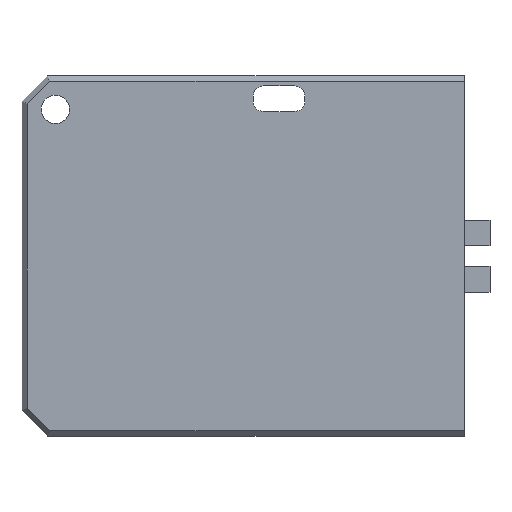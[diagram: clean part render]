
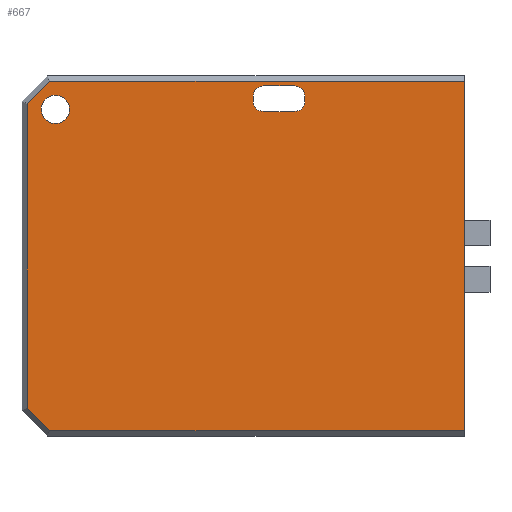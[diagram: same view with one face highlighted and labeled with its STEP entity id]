
A CAD part, top view. The second image highlights one B-rep face of the part: STEP entity #667.
In plain terms, the highlighted planar face has unit normal (0, 0, 1).
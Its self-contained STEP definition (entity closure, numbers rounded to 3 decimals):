
#23=FACE_BOUND('',#95,.T.);
#24=FACE_BOUND('',#96,.T.);
#29=CIRCLE('',#727,2.75);
#30=CIRCLE('',#728,2.);
#31=CIRCLE('',#729,2.);
#32=CIRCLE('',#730,2.);
#33=CIRCLE('',#731,2.);
#58=FACE_OUTER_BOUND('',#94,.T.);
#94=EDGE_LOOP('',(#509,#510,#511,#512,#513,#514));
#95=EDGE_LOOP('',(#515));
#96=EDGE_LOOP('',(#516,#517,#518,#519,#520,#521,#522,#523));
#154=LINE('',#1010,#236);
#156=LINE('',#1014,#238);
#159=LINE('',#1020,#241);
#162=LINE('',#1026,#244);
#165=LINE('',#1032,#247);
#168=LINE('',#1037,#250);
#169=LINE('',#1042,#251);
#170=LINE('',#1046,#252);
#171=LINE('',#1050,#253);
#172=LINE('',#1054,#254);
#236=VECTOR('',#822,10.);
#238=VECTOR('',#826,10.);
#241=VECTOR('',#831,10.);
#244=VECTOR('',#836,10.);
#247=VECTOR('',#841,10.);
#250=VECTOR('',#846,10.);
#251=VECTOR('',#849,10.);
#252=VECTOR('',#852,10.);
#253=VECTOR('',#855,10.);
#254=VECTOR('',#858,10.);
#307=VERTEX_POINT('',#1007);
#308=VERTEX_POINT('',#1009);
#309=VERTEX_POINT('',#1013);
#311=VERTEX_POINT('',#1019);
#313=VERTEX_POINT('',#1025);
#315=VERTEX_POINT('',#1031);
#317=VERTEX_POINT('',#1038);
#318=VERTEX_POINT('',#1040);
#319=VERTEX_POINT('',#1041);
#320=VERTEX_POINT('',#1043);
#321=VERTEX_POINT('',#1045);
#322=VERTEX_POINT('',#1047);
#323=VERTEX_POINT('',#1049);
#324=VERTEX_POINT('',#1051);
#325=VERTEX_POINT('',#1053);
#378=EDGE_CURVE('',#307,#308,#154,.T.);
#380=EDGE_CURVE('',#308,#309,#156,.T.);
#383=EDGE_CURVE('',#309,#311,#159,.T.);
#386=EDGE_CURVE('',#311,#313,#162,.T.);
#389=EDGE_CURVE('',#313,#315,#165,.T.);
#392=EDGE_CURVE('',#307,#315,#168,.T.);
#393=EDGE_CURVE('',#317,#317,#29,.T.);
#394=EDGE_CURVE('',#318,#319,#169,.T.);
#395=EDGE_CURVE('',#320,#319,#30,.T.);
#396=EDGE_CURVE('',#320,#321,#170,.T.);
#397=EDGE_CURVE('',#322,#321,#31,.T.);
#398=EDGE_CURVE('',#322,#323,#171,.T.);
#399=EDGE_CURVE('',#324,#323,#32,.T.);
#400=EDGE_CURVE('',#324,#325,#172,.T.);
#401=EDGE_CURVE('',#318,#325,#33,.T.);
#509=ORIENTED_EDGE('',*,*,#389,.F.);
#510=ORIENTED_EDGE('',*,*,#386,.F.);
#511=ORIENTED_EDGE('',*,*,#383,.F.);
#512=ORIENTED_EDGE('',*,*,#380,.F.);
#513=ORIENTED_EDGE('',*,*,#378,.F.);
#514=ORIENTED_EDGE('',*,*,#392,.T.);
#515=ORIENTED_EDGE('',*,*,#393,.T.);
#516=ORIENTED_EDGE('',*,*,#394,.T.);
#517=ORIENTED_EDGE('',*,*,#395,.F.);
#518=ORIENTED_EDGE('',*,*,#396,.T.);
#519=ORIENTED_EDGE('',*,*,#397,.F.);
#520=ORIENTED_EDGE('',*,*,#398,.T.);
#521=ORIENTED_EDGE('',*,*,#399,.F.);
#522=ORIENTED_EDGE('',*,*,#400,.T.);
#523=ORIENTED_EDGE('',*,*,#401,.F.);
#636=PLANE('',#726);
#667=ADVANCED_FACE('',(#58,#23,#24),#636,.T.);
#726=AXIS2_PLACEMENT_3D('',#1036,#844,#845);
#727=AXIS2_PLACEMENT_3D('',#1039,#847,#848);
#728=AXIS2_PLACEMENT_3D('',#1044,#850,#851);
#729=AXIS2_PLACEMENT_3D('',#1048,#853,#854);
#730=AXIS2_PLACEMENT_3D('',#1052,#856,#857);
#731=AXIS2_PLACEMENT_3D('',#1055,#859,#860);
#822=DIRECTION('',(-1.,0.,0.));
#826=DIRECTION('',(-0.707,0.707,0.));
#831=DIRECTION('',(0.,1.,0.));
#836=DIRECTION('',(0.707,0.707,0.));
#841=DIRECTION('',(1.,0.,0.));
#844=DIRECTION('center_axis',(0.,0.,1.));
#845=DIRECTION('ref_axis',(1.,0.,0.));
#846=DIRECTION('',(0.,1.,0.));
#847=DIRECTION('center_axis',(0.,0.,-1.));
#848=DIRECTION('ref_axis',(1.,0.,0.));
#849=DIRECTION('',(-1.,0.,0.));
#850=DIRECTION('center_axis',(0.,0.,1.));
#851=DIRECTION('ref_axis',(-0.707,-0.707,0.));
#852=DIRECTION('',(0.,1.,0.));
#853=DIRECTION('center_axis',(0.,0.,1.));
#854=DIRECTION('ref_axis',(-0.707,0.707,0.));
#855=DIRECTION('',(1.,0.,0.));
#856=DIRECTION('center_axis',(0.,0.,1.));
#857=DIRECTION('ref_axis',(0.707,0.707,0.));
#858=DIRECTION('',(0.,-1.,0.));
#859=DIRECTION('center_axis',(0.,0.,1.));
#860=DIRECTION('ref_axis',(0.707,-0.707,0.));
#1007=CARTESIAN_POINT('',(43.,-34.,2.));
#1009=CARTESIAN_POINT('',(-37.586,-34.,2.));
#1010=CARTESIAN_POINT('',(-21.5,-34.,2.));
#1013=CARTESIAN_POINT('',(-42.,-29.586,2.));
#1014=CARTESIAN_POINT('',(-37.793,-33.793,2.));
#1019=CARTESIAN_POINT('',(-42.,29.586,2.));
#1020=CARTESIAN_POINT('',(-42.,17.5,2.));
#1025=CARTESIAN_POINT('',(-37.586,34.,2.));
#1026=CARTESIAN_POINT('',(-37.793,33.793,2.));
#1031=CARTESIAN_POINT('',(43.,34.,2.));
#1032=CARTESIAN_POINT('',(21.5,34.,2.));
#1036=CARTESIAN_POINT('Origin',(0.,0.,2.));
#1037=CARTESIAN_POINT('',(43.,-35.,2.));
#1038=CARTESIAN_POINT('',(-39.25,28.5,2.));
#1039=CARTESIAN_POINT('Origin',(-36.5,28.5,2.));
#1040=CARTESIAN_POINT('',(9.97,28.081,2.));
#1041=CARTESIAN_POINT('',(3.97,28.081,2.));
#1042=CARTESIAN_POINT('',(5.985,28.081,2.));
#1043=CARTESIAN_POINT('',(1.97,30.081,2.));
#1044=CARTESIAN_POINT('Origin',(3.97,30.081,2.));
#1045=CARTESIAN_POINT('',(1.97,31.081,2.));
#1046=CARTESIAN_POINT('',(1.97,14.041,2.));
#1047=CARTESIAN_POINT('',(3.97,33.081,2.));
#1048=CARTESIAN_POINT('Origin',(3.97,31.081,2.));
#1049=CARTESIAN_POINT('',(9.97,33.081,2.));
#1050=CARTESIAN_POINT('',(0.985,33.081,2.));
#1051=CARTESIAN_POINT('',(11.97,31.081,2.));
#1052=CARTESIAN_POINT('Origin',(9.97,31.081,2.));
#1053=CARTESIAN_POINT('',(11.97,30.081,2.));
#1054=CARTESIAN_POINT('',(11.97,16.541,2.));
#1055=CARTESIAN_POINT('Origin',(9.97,30.081,2.));
